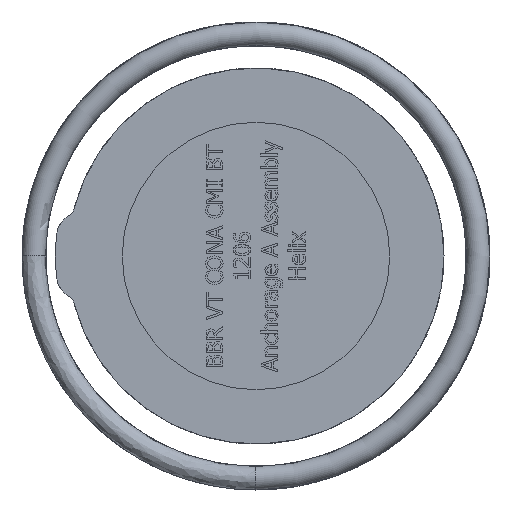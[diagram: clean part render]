
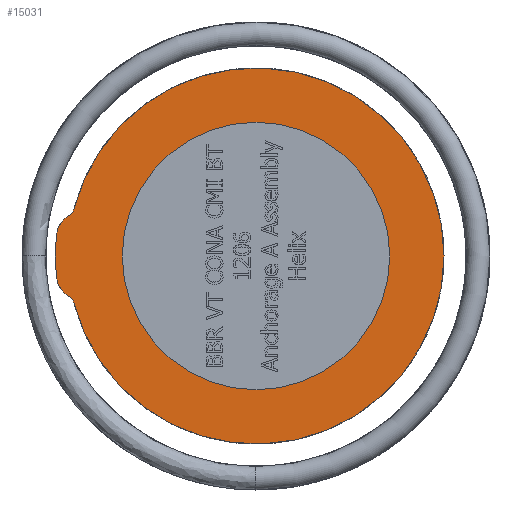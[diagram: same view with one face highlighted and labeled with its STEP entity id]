
A CAD part, left-side view. The second image highlights one B-rep face of the part: STEP entity #15031.
In plain terms, the highlighted planar face has unit normal (-1, 0, 0).
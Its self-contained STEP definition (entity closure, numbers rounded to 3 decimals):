
#2591=FACE_BOUND('',#4820,.T.);
#3276=PLANE('',#15586);
#3960=FACE_OUTER_BOUND('',#4819,.T.);
#4819=EDGE_LOOP('',(#12948,#12949,#12950,#12951,#12952,#12953));
#4820=EDGE_LOOP('',(#12954));
#5586=CIRCLE('',#15543,80.);
#5589=CIRCLE('',#15549,5.);
#5597=CIRCLE('',#15563,15.);
#5605=CIRCLE('',#15575,5.);
#5608=CIRCLE('',#15580,112.5);
#5610=CIRCLE('',#15583,15.);
#5612=CIRCLE('',#15587,120.);
#7006=VERTEX_POINT('',#29691);
#7010=VERTEX_POINT('',#29702);
#7011=VERTEX_POINT('',#29704);
#7024=VERTEX_POINT('',#29761);
#7034=VERTEX_POINT('',#29802);
#7035=VERTEX_POINT('',#29804);
#7038=VERTEX_POINT('',#29817);
#8981=EDGE_CURVE('',#7006,#7006,#5586,.T.);
#8985=EDGE_CURVE('',#7010,#7011,#5589,.T.);
#9004=EDGE_CURVE('',#7011,#7024,#5597,.T.);
#9018=EDGE_CURVE('',#7034,#7035,#5605,.T.);
#9022=EDGE_CURVE('',#7010,#7035,#5608,.T.);
#9026=EDGE_CURVE('',#7038,#7034,#5610,.T.);
#9028=EDGE_CURVE('',#7038,#7024,#5612,.T.);
#12948=ORIENTED_EDGE('',*,*,#9026,.F.);
#12949=ORIENTED_EDGE('',*,*,#9028,.T.);
#12950=ORIENTED_EDGE('',*,*,#9004,.F.);
#12951=ORIENTED_EDGE('',*,*,#8985,.F.);
#12952=ORIENTED_EDGE('',*,*,#9022,.T.);
#12953=ORIENTED_EDGE('',*,*,#9018,.F.);
#12954=ORIENTED_EDGE('',*,*,#8981,.T.);
#15031=ADVANCED_FACE('',(#3960,#2591),#3276,.T.);
#15543=AXIS2_PLACEMENT_3D('',#29693,#17817,#17818);
#15549=AXIS2_PLACEMENT_3D('',#29705,#17830,#17831);
#15563=AXIS2_PLACEMENT_3D('',#29762,#17865,#17866);
#15575=AXIS2_PLACEMENT_3D('',#29805,#17893,#17894);
#15580=AXIS2_PLACEMENT_3D('',#29811,#17904,#17905);
#15583=AXIS2_PLACEMENT_3D('',#29819,#17912,#17913);
#15586=AXIS2_PLACEMENT_3D('',#29822,#17918,#17919);
#15587=AXIS2_PLACEMENT_3D('',#29823,#17920,#17921);
#17817=DIRECTION('center_axis',(1.,0.,0.));
#17818=DIRECTION('ref_axis',(0.,0.,
1.));
#17830=DIRECTION('center_axis',(-1.,0.,0.));
#17831=DIRECTION('ref_axis',(0.,-0.789,0.615));
#17865=DIRECTION('center_axis',(1.,0.,0.));
#17866=DIRECTION('ref_axis',(0.,0.7,-0.714));
#17893=DIRECTION('center_axis',(-1.,0.,0.));
#17894=DIRECTION('ref_axis',(0.,-0.789,-0.615));
#17904=DIRECTION('center_axis',(-1.,0.,0.));
#17905=DIRECTION('ref_axis',(0.,-1.,0.));
#17912=DIRECTION('center_axis',(1.,0.,0.));
#17913=DIRECTION('ref_axis',(0.,0.7,0.714));
#17918=DIRECTION('center_axis',(-1.,0.,0.));
#17919=DIRECTION('ref_axis',(0.,0.,
1.));
#17920=DIRECTION('center_axis',(-1.,0.,0.));
#17921=DIRECTION('ref_axis',(0.,1.,0.));
#29691=CARTESIAN_POINT('',(-92.904,-49.335,-80.));
#29693=CARTESIAN_POINT('Origin',(-92.904,-49.335,0.));
#29702=CARTESIAN_POINT('',(-92.904,59.707,-27.679));
#29704=CARTESIAN_POINT('',(-92.904,62.178,-24.509));
#29705=CARTESIAN_POINT('Origin',(-92.904,64.553,-28.909));
#29761=CARTESIAN_POINT('',(-92.904,69.967,-12.924));
#29762=CARTESIAN_POINT('Origin',(-92.904,55.054,-11.308));
#29802=CARTESIAN_POINT('',(-92.904,62.178,24.509));
#29804=CARTESIAN_POINT('',(-92.904,59.707,27.679));
#29805=CARTESIAN_POINT('Origin',(-92.904,64.553,28.909));
#29811=CARTESIAN_POINT('Origin',(-92.904,-49.335,0.));
#29817=CARTESIAN_POINT('',(-92.904,69.967,12.924));
#29819=CARTESIAN_POINT('Origin',(-92.904,55.054,11.308));
#29822=CARTESIAN_POINT('Origin',(-92.904,-137.335,0.));
#29823=CARTESIAN_POINT('Origin',(-92.904,-49.335,0.));
